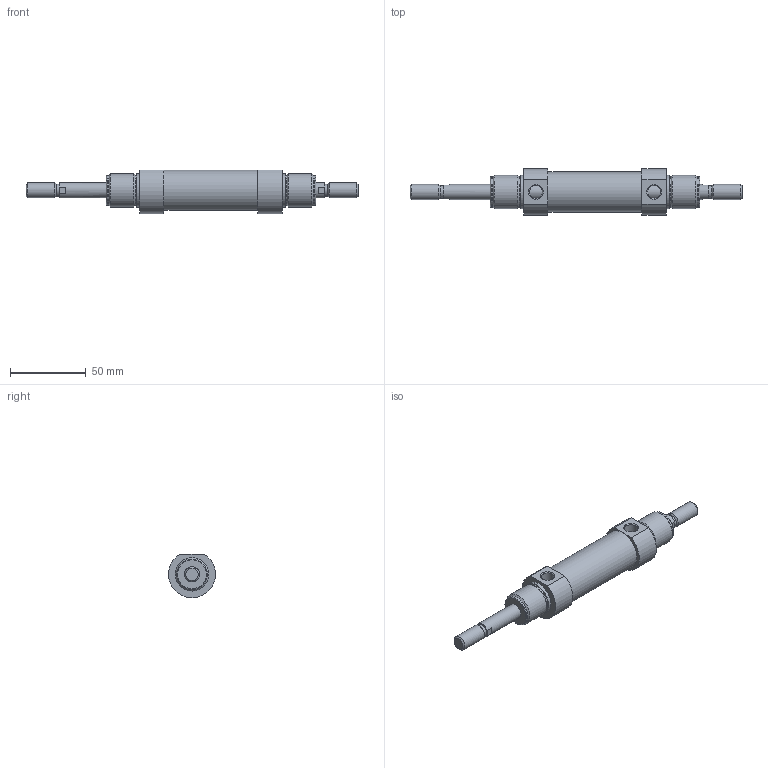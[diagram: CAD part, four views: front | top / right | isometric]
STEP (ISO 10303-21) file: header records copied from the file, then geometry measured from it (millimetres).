
FILE_DESCRIPTION( ( 'STEP AP203' ), '1' );
FILE_NAME( '//expscmdclustefs.cadenas.external/client_exchange/iodir/jobs/output/wkb68464918_no0/STEP/M101-025-0025--__0__2_03.stp', ' ', ( ' ' ), ( ' ' ), 'PSStep 15.0.47', 'PARTsolutions', ' ' );
FILE_SCHEMA( ( 'CONFIG_CONTROL_DESIGN' ) );
Length unit declared in the file: millimetre
Products named in the file (3): M101-025-0025-- [0]; HI_M101-025-0025---[0]-z; HI_M101-025-0025---[0]-k
Assembly tree (2 placements, depth 2):
  M101-025-0025-- [0]
    HI_M101-025-0025---[0]-z
    HI_M101-025-0025---[0]-k
Bounding box: 219 x 31 x 28.79 mm (x, y, z)
Volume: 68964.9 mm3; surface area: 28387.9 mm2
Topology: 2 solids, 2 shells, 63 faces, 123 edges, 74 vertices
Faces by surface type: plane 28, cylinder 23, cone 10, torus 2
Full cylindrical faces by diameter (mm): 8.16 x2, 8.566 x2, 10 x6, 20.16 x4, 22 x4, 25 x2, 26.6 x1
Entity records: 1700 total; most frequent: CARTESIAN_POINT 390, DIRECTION 276, ORIENTED_EDGE 176, AXIS2_PLACEMENT_3D 124, EDGE_LOOP 112, EDGE_CURVE 88, FACE_OUTER_BOUND 86, VERTEX_POINT 72
